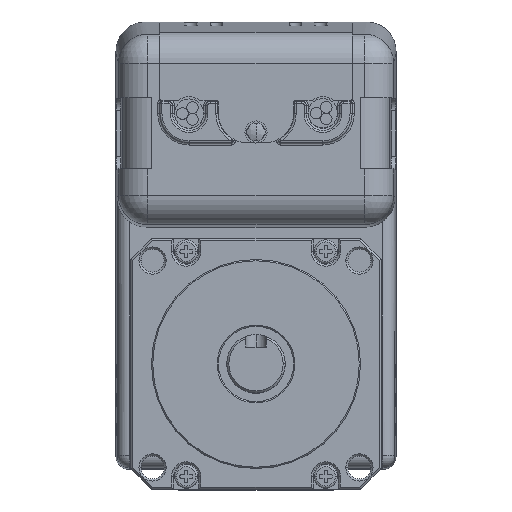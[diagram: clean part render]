
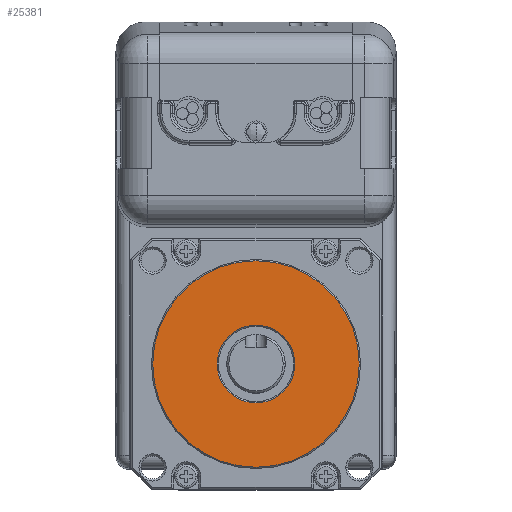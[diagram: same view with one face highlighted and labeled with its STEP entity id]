
A CAD part, top view. The second image highlights one B-rep face of the part: STEP entity #25381.
In plain terms, the highlighted planar face has unit normal (0, 0, 1).
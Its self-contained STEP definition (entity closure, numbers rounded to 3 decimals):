
#370 = ORIENTED_EDGE ( 'NONE', *, *, #25450, .T. ) ;
#371 = ORIENTED_EDGE ( 'NONE', *, *, #25508, .T. ) ;
#372 = ORIENTED_EDGE ( 'NONE', *, *, #25509, .T. ) ;
#373 = ORIENTED_EDGE ( 'NONE', *, *, #25501, .T. ) ;
#5313 = EDGE_LOOP ( 'NONE', ( #370, #371 ) ) ;
#5314 = EDGE_LOOP ( 'NONE', ( #372, #373 ) ) ;
#5860 = VERTEX_POINT ( 'NONE', #19512 ) ;
#5862 = VERTEX_POINT ( 'NONE', #19516 ) ;
#5948 = VERTEX_POINT ( 'NONE', #19662 ) ;
#5949 = VERTEX_POINT ( 'NONE', #19663 ) ;
#14602 = AXIS2_PLACEMENT_3D ( 'NONE', #23009, #23010, #23011 ) ;
#14640 = AXIS2_PLACEMENT_3D ( 'NONE', #23194, #23195, #23196 ) ;
#14661 = AXIS2_PLACEMENT_3D ( 'NONE', #23349, #23350, #23351 ) ;
#14664 = AXIS2_PLACEMENT_3D ( 'NONE', #23366, #23367, #23368 ) ;
#14665 = AXIS2_PLACEMENT_3D ( 'NONE', #23369, #23370, #23371 ) ;
#19512 = CARTESIAN_POINT ( 'NONE',  ( 24.7, 0., 3. ) ) ;
#19516 = CARTESIAN_POINT ( 'NONE',  ( -24.7, 0., 3. ) ) ;
#19662 = CARTESIAN_POINT ( 'NONE',  ( -9.3, 0., 3. ) ) ;
#19663 = CARTESIAN_POINT ( 'NONE',  ( 9.3, 0., 3. ) ) ;
#21430 = FACE_BOUND ( 'NONE', #5313, .T. ) ;
#21431 = FACE_OUTER_BOUND ( 'NONE', #5314, .T. ) ;
#21544 = CIRCLE ( 'NONE', #14640, 9.3 ) ;
#21619 = CIRCLE ( 'NONE', #14661, 24.7 ) ;
#21629 = CIRCLE ( 'NONE', #14664, 9.3 ) ;
#21630 = CIRCLE ( 'NONE', #14665, 24.7 ) ;
#23008 = PLANE ( 'NONE',  #14602 ) ;
#23009 = CARTESIAN_POINT ( 'NONE',  ( 0., 0., 3. ) ) ;
#23010 = DIRECTION ( 'NONE',  ( 0., 0., 1. ) ) ;
#23011 = DIRECTION ( 'NONE',  ( 1., 0., 0. ) ) ;
#23194 = CARTESIAN_POINT ( 'NONE',  ( 0., 0., 3. ) ) ;
#23195 = DIRECTION ( 'NONE',  ( 0., 0., -1. ) ) ;
#23196 = DIRECTION ( 'NONE',  ( 1., 0., 0. ) ) ;
#23349 = CARTESIAN_POINT ( 'NONE',  ( 0., 0., 3. ) ) ;
#23350 = DIRECTION ( 'NONE',  ( 0., 0., 1. ) ) ;
#23351 = DIRECTION ( 'NONE',  ( 1., 0., 0. ) ) ;
#23366 = CARTESIAN_POINT ( 'NONE',  ( 0., 0., 3. ) ) ;
#23367 = DIRECTION ( 'NONE',  ( 0., 0., -1. ) ) ;
#23368 = DIRECTION ( 'NONE',  ( 1., 0., 0. ) ) ;
#23369 = CARTESIAN_POINT ( 'NONE',  ( 0., 0., 3. ) ) ;
#23370 = DIRECTION ( 'NONE',  ( 0., 0., 1. ) ) ;
#23371 = DIRECTION ( 'NONE',  ( 1., 0., 0. ) ) ;
#25381 = ADVANCED_FACE ( 'NONE', ( #21430, #21431 ), #23008, .T. ) ;
#25450 = EDGE_CURVE ( 'NONE', #5949, #5948, #21544, .T. ) ;
#25501 = EDGE_CURVE ( 'NONE', #5860, #5862, #21619, .T. ) ;
#25508 = EDGE_CURVE ( 'NONE', #5948, #5949, #21629, .T. ) ;
#25509 = EDGE_CURVE ( 'NONE', #5862, #5860, #21630, .T. ) ;
